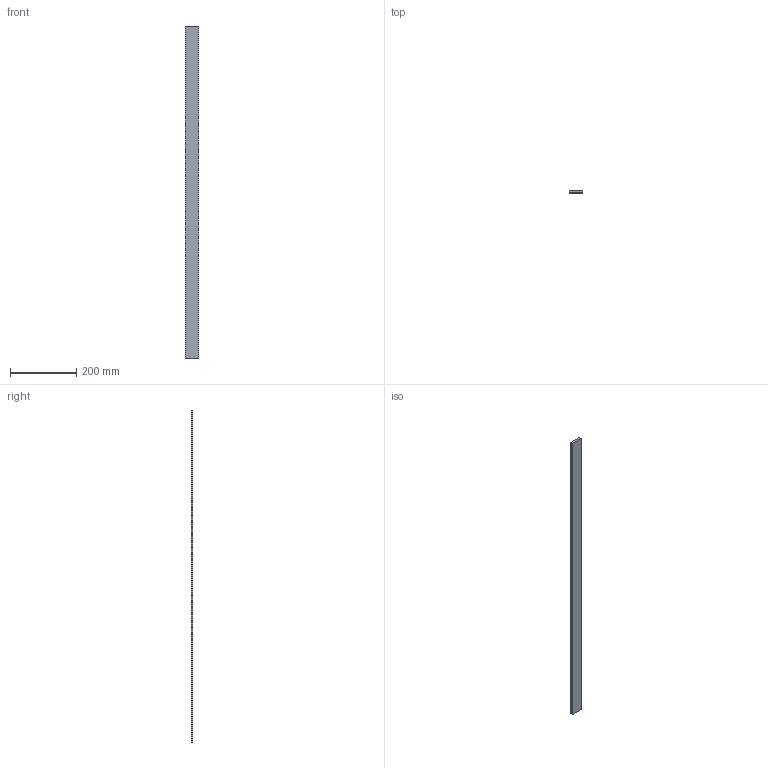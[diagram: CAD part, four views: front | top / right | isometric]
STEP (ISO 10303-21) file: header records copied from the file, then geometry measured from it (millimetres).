
FILE_DESCRIPTION (( 'STEP AP214' ), '1' );
FILE_NAME ('AFB406.STEP', '2025-06-12T18:25:23', ( '' ), ( '' ), 'SwSTEP 2.0', 'SolidWorks 2023', '' );
FILE_SCHEMA (( 'AUTOMOTIVE_DESIGN' ));
Length unit declared in the file: millimetre
Products named in the file (1): AFB406
Bounding box: 40 x 6 x 1000 mm (x, y, z)
Volume: 240000 mm3; surface area: 92480 mm2
Topology: 1 solids, 1 shells, 6 faces, 12 edges, 8 vertices
Faces by surface type: plane 6
Entity records: 179 total; most frequent: CARTESIAN_POINT 27, DIRECTION 26, ORIENTED_EDGE 24, VECTOR 12, LINE 12, EDGE_CURVE 12, VERTEX_POINT 8, AXIS2_PLACEMENT_3D 7
